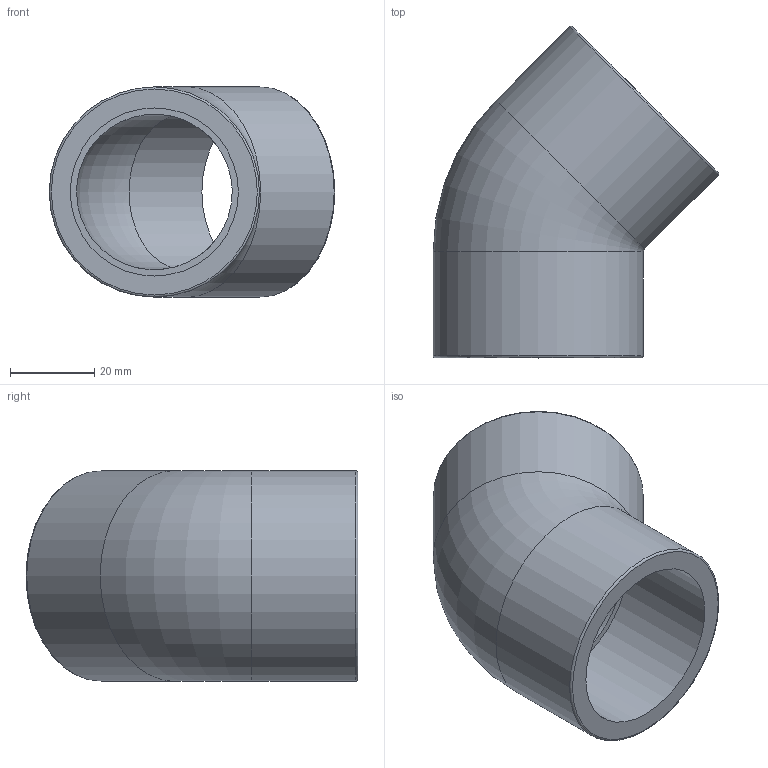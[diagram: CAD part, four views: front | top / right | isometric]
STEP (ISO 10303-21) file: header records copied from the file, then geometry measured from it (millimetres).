
FILE_DESCRIPTION(/* description */ ('PVC gomito a 45° incollaggio metrico'),/* implementation_level */ '2;1');
FILE_NAME(/* name */ 'C:\Users\POLYPIPE\Desktop\DATASET INVENTOR\LIBRERIA EFFAST\RACCORDI 3DxWEB\RDR\3D_RDRGYD\3D_RDRGYD0400.stp',/* time_stamp */ '2018-01-19T14:34:09+01:00',/* author */ ('POLYPIPE'),/* organization */ ('Polypipe Italia s.r.l.'),/* preprocessor_version */ 'ST-DEVELOPER v16.1',/* originating_system */ 'Autodesk Inventor 2016',/* authorisation */ '');
FILE_SCHEMA (('CONFIG_CONTROL_DESIGN'));
Length unit declared in the file: millimetre
Products named in the file (1): 3D_RDRGYD
Bounding box: 67.93 x 78.93 x 50 mm (x, y, z)
Volume: 53513.9 mm3; surface area: 21573.7 mm2
Topology: 1 solids, 1 shells, 12 faces, 20 edges, 12 vertices
Faces by surface type: torus 4, cylinder 4, plane 4
Full cylindrical faces by diameter (mm): 40 x2, 50 x2
Entity records: 396 total; most frequent: CARTESIAN_POINT 167, DIRECTION 46, EDGE_LOOP 24, ORIENTED_EDGE 24, AXIS2_PLACEMENT_3D 23, FACE_BOUND 12, FACE_OUTER_BOUND 12, VERTEX_POINT 12
